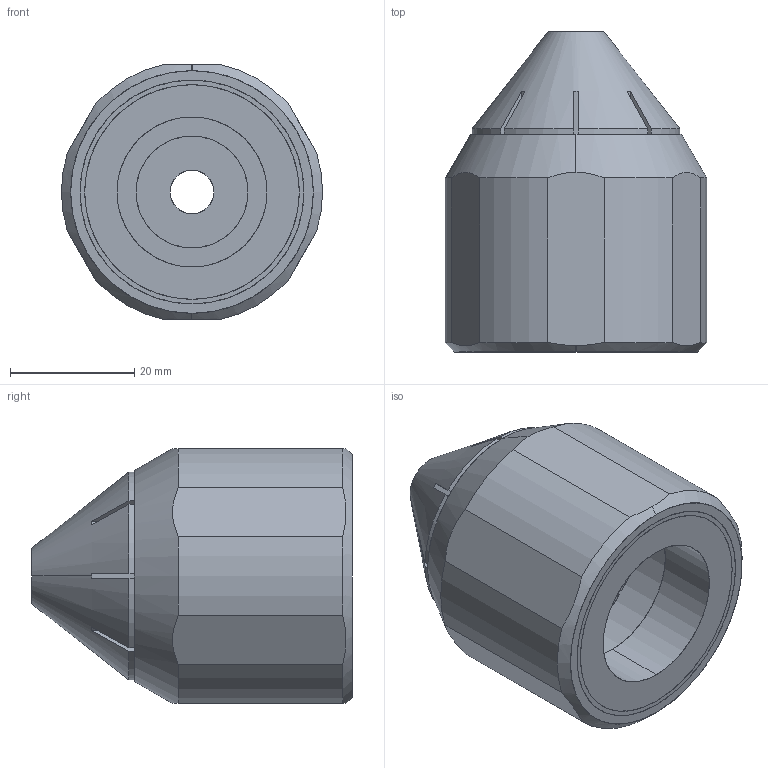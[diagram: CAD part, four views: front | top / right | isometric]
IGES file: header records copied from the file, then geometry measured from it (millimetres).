
Start section: SolidWorks IGES file using analytic representation for surfaces
Global section: file name: G:\SILVENT AB\ENGINEERING\Drawings\ÖVRIGT\IGES\Silvent 712 L.IGS; native system: SolidWorks 2021; preprocessor: SolidWorks 2021; author: P.Svensson; date: 231219.160557; units: millimetre
Bounding box: 42 x 51.5 x 41 mm (x, y, z)
Surface area: 18467.6 mm2 (no closed solid volume)
Topology: 0 solids, 0 shells, 118 faces, 1502 edges, 1502 vertices
Faces by surface type: revolution 72, bspline 46
